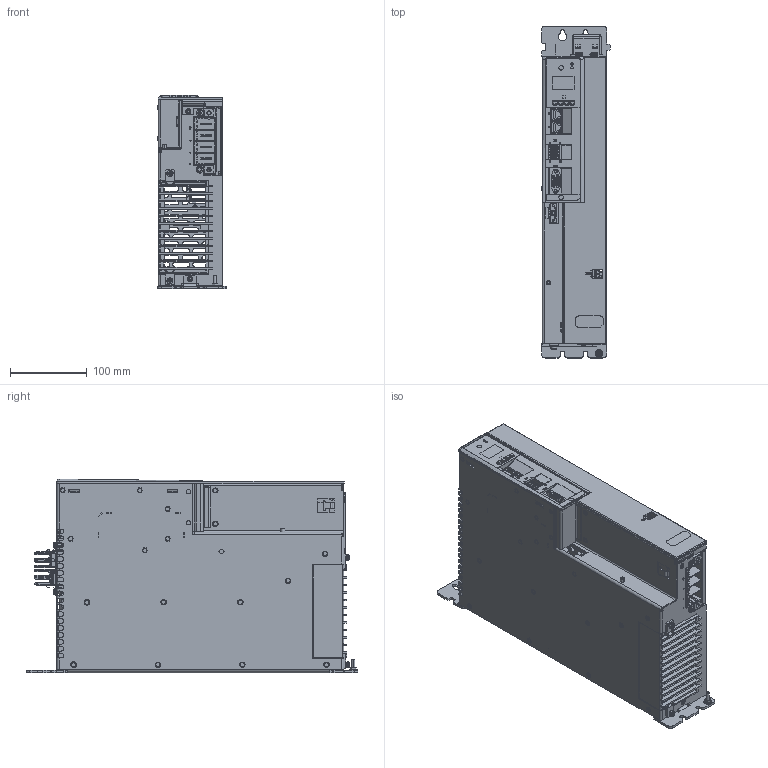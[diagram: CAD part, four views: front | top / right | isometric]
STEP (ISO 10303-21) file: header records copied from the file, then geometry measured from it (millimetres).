
FILE_DESCRIPTION((''),'2;1');
FILE_NAME('OUTLINE_SW0003','2015-04-14T',('msmatock'),('Rockwell Automation'),'PRO/ENGINEER BY PARAMETRIC TECHNOLOGY CORPORATION, 2012480','PRO/ENGINEER BY PARAMETRIC TECHNOLOGY CORPORATION, 2012480','');
FILE_SCHEMA(('CONFIG_CONTROL_DESIGN'));
Products named in the file (1): OUTLINE_SW0003
Bounding box: 89.88 x 433 x 252.64 mm (x, y, z)
Surface area: 671055.1 mm2 (no closed solid volume)
Topology: 0 solids, 370 shells, 3873 faces, 18442 edges, 14464 vertices
Faces by surface type: plane 2527, cylinder 853, cone 213, bspline 169, sphere 82, extrusion 17, torus 12
Entity records: 204027 total; most frequent: CARTESIAN_POINT 64633, ORIENTED_EDGE 26233, DIRECTION 25946, EDGE_CURVE 18426, VERTEX_POINT 14456, VECTOR 11998, LINE 11981, AXIS2_PLACEMENT_3D 6974
